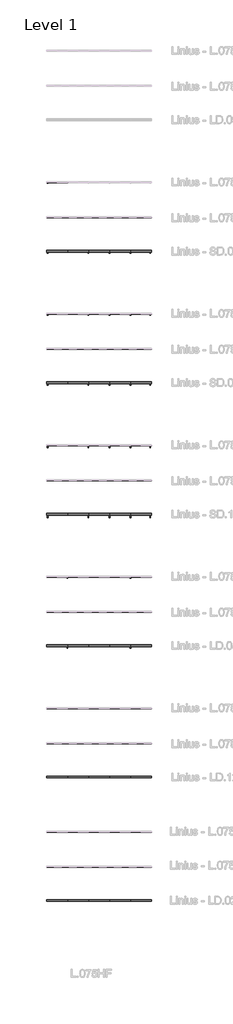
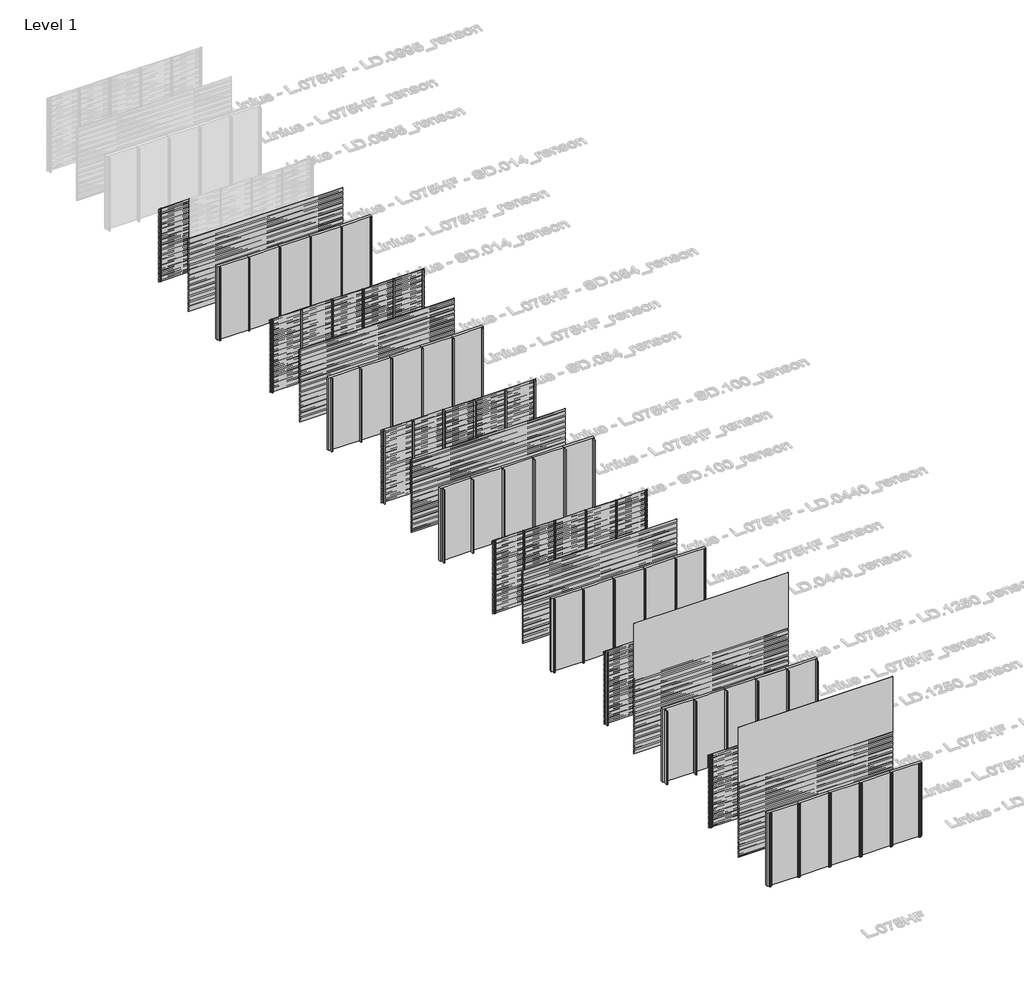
# One storey, part 1 of 55: 67 members, 62 plates.
"""IFC4 building model written with IfcOpenShell, lengths in millimetres."""

from ifc_helpers import new_model, si_unit, origin, origin_with_axes, place, context, project, spatial, polyline, outline, extrude, transform, mapped, element, save
from components import rectangular_mullion_2c867e25, rectangular_mullion_7803f5c4, rectangular_mullion_82152e2f, rectangular_mullion_5b30f3fd, rectangular_mullion_5e0e8e0a, rectangular_mullion_d2d38772, rectangular_mullion_efb80f74, rectangular_mullion_aaa1fb1b, rectangular_mullion_ea9d012c, rectangular_mullion_3facce28, rectangular_mullion_2b84ad7e, rectangular_mullion_0fd695e7, rectangular_mullion_6cf2c509, rectangular_mullion_9b796d85, rectangular_mullion_dfb17e98, rectangular_mullion_8b77bd57, rectangular_mullion_6132f1f1, rectangular_mullion_8f153c19, empty_system_panel_empty_5195cd12

model = new_model("IFC4")

# Units and contexts
model_context = context("Model", 3, world=origin())
ifc_project = project(units=[si_unit("LENGTHUNIT", "METRE", prefix="MILLI")], contexts=[model_context])

# Site, building, storey
site = spatial("IfcSite", under=ifc_project)
building = spatial("IfcBuilding", under=site)
storey = spatial("IfcBuildingStorey", under=building, Name="Level 1", Elevation=0.0)

# Members
placement = place(None, origin())
rectangular_mullion_shape = rectangular_mullion_2c867e25(model_context)
element("IfcMember", 1, ObjectType="Rectangular Mullion : LD.0440_renson", at=placement, inside=storey, context=model_context, shape_type="MappedRepresentation", body=[
    mapped(rectangular_mullion_shape, transform((4066.6208096, 21524.0540136, 0.0), x_axis=(-1.0, 0.0, 0.0), y_axis=(0.0, 1.0, 0.0), z_axis=(0.0, 0.0, -1.0))),
])
element("IfcMember", 2, ObjectType="Rectangular Mullion : LD.0440_renson", at=placement, inside=storey, context=model_context, shape_type="MappedRepresentation", body=[
    mapped(rectangular_mullion_shape, transform((2866.6208097, 21524.0540136, 0.0), x_axis=(-1.0, 0.0, 0.0), y_axis=(0.0, 1.0, 0.0), z_axis=(0.0, 0.0, -1.0))),
])
element("IfcMember", 3, ObjectType="Rectangular Mullion : LD.0440_renson", at=placement, inside=storey, context=model_context, shape_type="MappedRepresentation", body=[
    mapped(rectangular_mullion_shape, transform((1666.6208099, 21524.0540136, 0.0), x_axis=(-1.0, 0.0, 0.0), y_axis=(0.0, 1.0, 0.0), z_axis=(0.0, 0.0, -1.0))),
])
element("IfcMember", 4, ObjectType="Rectangular Mullion : LD.0440_renson", at=placement, inside=storey, context=model_context, shape_type="MappedRepresentation", body=[
    mapped(rectangular_mullion_shape, transform((4066.6208096, 17524.0540136, 0.0), x_axis=(-1.0, 0.0, 0.0), y_axis=(0.0, 1.0, 0.0), z_axis=(0.0, 0.0, -1.0))),
])
element("IfcMember", 5, ObjectType="Rectangular Mullion : LD.0440_renson", at=placement, inside=storey, context=model_context, shape_type="MappedRepresentation", body=[
    mapped(rectangular_mullion_shape, transform((2866.6208097, 17524.0540136, 0.0), x_axis=(-1.0, 0.0, 0.0), y_axis=(0.0, 1.0, 0.0), z_axis=(0.0, 0.0, -1.0))),
])
element("IfcMember", 6, ObjectType="Rectangular Mullion : LD.0440_renson", at=placement, inside=storey, context=model_context, shape_type="MappedRepresentation", body=[
    mapped(rectangular_mullion_shape, transform((1666.6208099, 17524.0540136, 0.0), x_axis=(-1.0, 0.0, 0.0), y_axis=(0.0, 1.0, 0.0), z_axis=(0.0, 0.0, -1.0))),
])
element("IfcMember", 7, ObjectType="Rectangular Mullion : LD.0440_renson", at=placement, inside=storey, context=model_context, shape_type="MappedRepresentation", body=[
    mapped(rectangular_mullion_shape, transform((5266.6208095, 17524.0540136, 0.0), x_axis=(-1.0, 0.0, 0.0), y_axis=(0.0, 1.0, 0.0), z_axis=(0.0, 0.0, -1.0))),
])
element("IfcMember", 8, ObjectType="Rectangular Mullion : LD.0440_renson", at=placement, inside=storey, context=model_context, shape_type="MappedRepresentation", body=[
    mapped(rectangular_mullion_shape, transform((5266.6208095, 21524.0540136, 0.0), x_axis=(-1.0, 0.0, 0.0), y_axis=(0.0, 1.0, 0.0), z_axis=(0.0, 0.0, -1.0))),
])
rectangular_mullion_2_shape = rectangular_mullion_7803f5c4(model_context)
element("IfcMember", 9, ObjectType="Rectangular Mullion : LD.1250_renson", at=placement, inside=storey, context=model_context, shape_type="MappedRepresentation", body=[
    mapped(rectangular_mullion_2_shape, transform((4066.6208096, 14024.0540136, 0.0), x_axis=(-1.0, 0.0, 0.0), y_axis=(0.0, 1.0, 0.0), z_axis=(0.0, 0.0, -1.0))),
])
element("IfcMember", 10, ObjectType="Rectangular Mullion : LD.1250_renson", at=placement, inside=storey, context=model_context, shape_type="MappedRepresentation", body=[
    mapped(rectangular_mullion_2_shape, transform((2866.6208097, 14024.0540136, 0.0), x_axis=(-1.0, 0.0, 0.0), y_axis=(0.0, 1.0, 0.0), z_axis=(0.0, 0.0, -1.0))),
])
element("IfcMember", 11, ObjectType="Rectangular Mullion : LD.1250_renson", at=placement, inside=storey, context=model_context, shape_type="MappedRepresentation", body=[
    mapped(rectangular_mullion_2_shape, transform((1666.6208099, 14024.0540136, 0.0), x_axis=(-1.0, 0.0, 0.0), y_axis=(0.0, 1.0, 0.0), z_axis=(0.0, 0.0, -1.0))),
])
element("IfcMember", 12, ObjectType="Rectangular Mullion : LD.1250_renson", at=placement, inside=storey, context=model_context, shape_type="MappedRepresentation", body=[
    mapped(rectangular_mullion_2_shape, transform((4066.6208096, 10024.0540136, 0.0), x_axis=(-1.0, 0.0, 0.0), y_axis=(0.0, 1.0, 0.0), z_axis=(0.0, 0.0, -1.0))),
])
element("IfcMember", 13, ObjectType="Rectangular Mullion : LD.1250_renson", at=placement, inside=storey, context=model_context, shape_type="MappedRepresentation", body=[
    mapped(rectangular_mullion_2_shape, transform((2866.6208097, 10024.0540136, 0.0), x_axis=(-1.0, 0.0, 0.0), y_axis=(0.0, 1.0, 0.0), z_axis=(0.0, 0.0, -1.0))),
])
element("IfcMember", 14, ObjectType="Rectangular Mullion : LD.1250_renson", at=placement, inside=storey, context=model_context, shape_type="MappedRepresentation", body=[
    mapped(rectangular_mullion_2_shape, transform((1666.6208099, 10024.0540136, 0.0), x_axis=(-1.0, 0.0, 0.0), y_axis=(0.0, 1.0, 0.0), z_axis=(0.0, 0.0, -1.0))),
])
element("IfcMember", 15, ObjectType="Rectangular Mullion : LD.1250_renson", at=placement, inside=storey, context=model_context, shape_type="MappedRepresentation", body=[
    mapped(rectangular_mullion_2_shape, transform((5266.6208095, 10024.0540136, 0.0), x_axis=(-1.0, 0.0, 0.0), y_axis=(0.0, 1.0, 0.0), z_axis=(0.0, 0.0, -1.0))),
])
element("IfcMember", 16, ObjectType="Rectangular Mullion : LD.1250_renson", at=placement, inside=storey, context=model_context, shape_type="MappedRepresentation", body=[
    mapped(rectangular_mullion_2_shape, transform((5266.6208095, 14024.0540136, 0.0), x_axis=(-1.0, 0.0, 0.0), y_axis=(0.0, 1.0, 0.0), z_axis=(0.0, 0.0, -1.0))),
])
rectangular_mullion_3_shape = rectangular_mullion_82152e2f(model_context)
element("IfcMember", 17, ObjectType="Rectangular Mullion : LD.0240_renson", at=placement, inside=storey, context=model_context, shape_type="MappedRepresentation", body=[
    mapped(rectangular_mullion_3_shape, transform((5266.6208095, 2985.0270068, 0.0), x_axis=(-1.0, 0.0, 0.0), y_axis=(0.0, 1.0, 0.0), z_axis=(0.0, 0.0, -1.0))),
])
element("IfcMember", 18, ObjectType="Rectangular Mullion : LD.0240_renson", at=placement, inside=storey, context=model_context, shape_type="MappedRepresentation", body=[
    mapped(rectangular_mullion_3_shape, transform((4066.6208096, 2985.0270068, 0.0), x_axis=(-1.0, 0.0, 0.0), y_axis=(0.0, 1.0, 0.0), z_axis=(0.0, 0.0, -1.0))),
])
element("IfcMember", 19, ObjectType="Rectangular Mullion : LD.0240_renson", at=placement, inside=storey, context=model_context, shape_type="MappedRepresentation", body=[
    mapped(rectangular_mullion_3_shape, transform((2866.6208097, 2985.0270068, 0.0), x_axis=(-1.0, 0.0, 0.0), y_axis=(0.0, 1.0, 0.0), z_axis=(0.0, 0.0, -1.0))),
])
element("IfcMember", 20, ObjectType="Rectangular Mullion : LD.0240_renson", at=placement, inside=storey, context=model_context, shape_type="MappedRepresentation", body=[
    mapped(rectangular_mullion_3_shape, transform((1666.6208099, 2985.0270068, 0.0), x_axis=(-1.0, 0.0, 0.0), y_axis=(0.0, 1.0, 0.0), z_axis=(0.0, 0.0, -1.0))),
])
element("IfcMember", 21, ObjectType="Rectangular Mullion : LD.0240_renson", at=placement, inside=storey, context=model_context, shape_type="MappedRepresentation", body=[
    mapped(rectangular_mullion_3_shape, transform((4066.6208096, 6987.0270068, 0.0), x_axis=(-1.0, 0.0, 0.0), y_axis=(0.0, 1.0, 0.0), z_axis=(0.0, 0.0, -1.0))),
])
element("IfcMember", 22, ObjectType="Rectangular Mullion : LD.0240_renson", at=placement, inside=storey, context=model_context, shape_type="MappedRepresentation", body=[
    mapped(rectangular_mullion_3_shape, transform((2866.6208097, 6987.0270068, 0.0), x_axis=(-1.0, 0.0, 0.0), y_axis=(0.0, 1.0, 0.0), z_axis=(0.0, 0.0, -1.0))),
])
element("IfcMember", 23, ObjectType="Rectangular Mullion : LD.0240_renson", at=placement, inside=storey, context=model_context, shape_type="MappedRepresentation", body=[
    mapped(rectangular_mullion_3_shape, transform((1666.6208099, 6987.0270068, 0.0), x_axis=(-1.0, 0.0, 0.0), y_axis=(0.0, 1.0, 0.0), z_axis=(0.0, 0.0, -1.0))),
])
element("IfcMember", 24, ObjectType="Rectangular Mullion : LD.0240_renson", at=placement, inside=storey, context=model_context, shape_type="MappedRepresentation", body=[
    mapped(rectangular_mullion_3_shape, transform((5266.6208095, 6987.0270068, 0.0), x_axis=(-1.0, 0.0, 0.0), y_axis=(0.0, 1.0, 0.0), z_axis=(0.0, 0.0, -1.0))),
])
rectangular_mullion_4_shape = rectangular_mullion_5b30f3fd(model_context)
element("IfcMember", 25, ObjectType="Rectangular Mullion : LD.0440 - left_renson", at=placement, inside=storey, context=model_context, shape_type="MappedRepresentation", body=[
    mapped(rectangular_mullion_4_shape, transform((466.6208097, 21524.0540136, 0.0), x_axis=(-1.0, 0.0, 0.0), y_axis=(0.0, 1.0, 0.0), z_axis=(0.0, 0.0, -1.0))),
])
element("IfcMember", 26, ObjectType="Rectangular Mullion : LD.0440 - left_renson", at=placement, inside=storey, context=model_context, shape_type="MappedRepresentation", body=[
    mapped(rectangular_mullion_4_shape, transform((466.6208097, 17524.0540136, 0.0), x_axis=(-1.0, 0.0, 0.0), y_axis=(0.0, 1.0, 0.0), z_axis=(0.0, 0.0, -1.0))),
])
rectangular_mullion_5_shape = rectangular_mullion_5e0e8e0a(model_context)
element("IfcMember", 27, ObjectType="Rectangular Mullion : LD.0440 - right_renson", at=placement, inside=storey, context=model_context, shape_type="MappedRepresentation", body=[
    mapped(rectangular_mullion_5_shape, transform((6466.6208097, 21524.0540136, 3000.0), x_axis=(1.0, 0.0, 0.0), y_axis=(0.0, 1.0, 0.0), z_axis=(0.0, 0.0, 1.0))),
])
element("IfcMember", 28, ObjectType="Rectangular Mullion : LD.0440 - right_renson", at=placement, inside=storey, context=model_context, shape_type="MappedRepresentation", body=[
    mapped(rectangular_mullion_5_shape, transform((6466.6208097, 17524.0540136, 3000.0), x_axis=(1.0, 0.0, 0.0), y_axis=(0.0, 1.0, 0.0), z_axis=(0.0, 0.0, 1.0))),
])
rectangular_mullion_6_shape = rectangular_mullion_d2d38772(model_context)
element("IfcMember", 29, ObjectType="Rectangular Mullion : LD.1250 - left_renson", at=placement, inside=storey, context=model_context, shape_type="MappedRepresentation", body=[
    mapped(rectangular_mullion_6_shape, transform((466.6208097, 14024.0540136, 0.0), x_axis=(-1.0, 0.0, 0.0), y_axis=(0.0, 1.0, 0.0), z_axis=(0.0, 0.0, -1.0))),
])
element("IfcMember", 30, ObjectType="Rectangular Mullion : LD.1250 - left_renson", at=placement, inside=storey, context=model_context, shape_type="MappedRepresentation", body=[
    mapped(rectangular_mullion_6_shape, transform((466.6208097, 10024.0540136, 0.0), x_axis=(-1.0, 0.0, 0.0), y_axis=(0.0, 1.0, 0.0), z_axis=(0.0, 0.0, -1.0))),
])
rectangular_mullion_7_shape = rectangular_mullion_efb80f74(model_context)
element("IfcMember", 31, ObjectType="Rectangular Mullion : LD.1250 - right_renson", at=placement, inside=storey, context=model_context, shape_type="MappedRepresentation", body=[
    mapped(rectangular_mullion_7_shape, transform((6466.6208097, 14024.0540136, 3000.0), x_axis=(1.0, 0.0, 0.0), y_axis=(0.0, 1.0, 0.0), z_axis=(0.0, 0.0, 1.0))),
])
element("IfcMember", 32, ObjectType="Rectangular Mullion : LD.1250 - right_renson", at=placement, inside=storey, context=model_context, shape_type="MappedRepresentation", body=[
    mapped(rectangular_mullion_7_shape, transform((6466.6208097, 10024.0540136, 3000.0), x_axis=(1.0, 0.0, 0.0), y_axis=(0.0, 1.0, 0.0), z_axis=(0.0, 0.0, 1.0))),
])
rectangular_mullion_8_shape = rectangular_mullion_aaa1fb1b(model_context)
element("IfcMember", 33, ObjectType="Rectangular Mullion : LD.0240 - left_renson", at=placement, inside=storey, context=model_context, shape_type="MappedRepresentation", body=[
    mapped(rectangular_mullion_8_shape, transform((466.6208097, 2985.0270068, 0.0), x_axis=(-1.0, 0.0, 0.0), y_axis=(0.0, 1.0, 0.0), z_axis=(0.0, 0.0, -1.0))),
])
element("IfcMember", 34, ObjectType="Rectangular Mullion : LD.0240 - left_renson", at=placement, inside=storey, context=model_context, shape_type="MappedRepresentation", body=[
    mapped(rectangular_mullion_8_shape, transform((466.6208097, 6987.0270068, 0.0), x_axis=(-1.0, 0.0, 0.0), y_axis=(0.0, 1.0, 0.0), z_axis=(0.0, 0.0, -1.0))),
])
rectangular_mullion_9_shape = rectangular_mullion_ea9d012c(model_context)
element("IfcMember", 35, ObjectType="Rectangular Mullion : LD.0240 - right_renson", at=placement, inside=storey, context=model_context, shape_type="MappedRepresentation", body=[
    mapped(rectangular_mullion_9_shape, transform((6466.6208097, 2985.0270068, 3000.0), x_axis=(1.0, 0.0, 0.0), y_axis=(0.0, 1.0, 0.0), z_axis=(0.0, 0.0, 1.0))),
])
element("IfcMember", 36, ObjectType="Rectangular Mullion : LD.0240 - right_renson", at=placement, inside=storey, context=model_context, shape_type="MappedRepresentation", body=[
    mapped(rectangular_mullion_9_shape, transform((6466.6208097, 6987.0270068, 3000.0), x_axis=(1.0, 0.0, 0.0), y_axis=(0.0, 1.0, 0.0), z_axis=(0.0, 0.0, 1.0))),
])
rectangular_mullion_10_shape = rectangular_mullion_3facce28(model_context)
element("IfcMember", 37, ObjectType="Rectangular Mullion : SD.014_renson", at=placement, inside=storey, context=model_context, shape_type="MappedRepresentation", body=[
    mapped(rectangular_mullion_10_shape, transform((4066.6208096, 40024.0540136, 0.0), x_axis=(-1.0, 0.0, 0.0), y_axis=(0.0, 1.0, 0.0), z_axis=(0.0, 0.0, -1.0))),
])
element("IfcMember", 38, ObjectType="Rectangular Mullion : SD.014_renson", at=placement, inside=storey, context=model_context, shape_type="MappedRepresentation", body=[
    mapped(rectangular_mullion_10_shape, transform((2866.6208097, 40024.0540136, 0.0), x_axis=(-1.0, 0.0, 0.0), y_axis=(0.0, 1.0, 0.0), z_axis=(0.0, 0.0, -1.0))),
])
element("IfcMember", 39, ObjectType="Rectangular Mullion : SD.014_renson", at=placement, inside=storey, context=model_context, shape_type="MappedRepresentation", body=[
    mapped(rectangular_mullion_10_shape, transform((1666.6208099, 40024.0540136, 0.0), x_axis=(-1.0, 0.0, 0.0), y_axis=(0.0, 1.0, 0.0), z_axis=(0.0, 0.0, -1.0))),
])
element("IfcMember", 40, ObjectType="Rectangular Mullion : SD.014_renson", at=placement, inside=storey, context=model_context, shape_type="MappedRepresentation", body=[
    mapped(rectangular_mullion_10_shape, transform((5266.6208095, 40024.0540136, 0.0), x_axis=(-1.0, 0.0, 0.0), y_axis=(0.0, 1.0, 0.0), z_axis=(0.0, 0.0, -1.0))),
])
rectangular_mullion_11_shape = rectangular_mullion_2b84ad7e(model_context)
element("IfcMember", 41, ObjectType="Rectangular Mullion : SD.014 - left_renson", at=placement, inside=storey, context=model_context, shape_type="MappedRepresentation", body=[
    mapped(rectangular_mullion_11_shape, transform((466.6208097, 44024.0540136, 0.0), x_axis=(-1.0, 0.0, 0.0), y_axis=(0.0, 1.0, 0.0), z_axis=(0.0, 0.0, -1.0))),
])
element("IfcMember", 42, ObjectType="Rectangular Mullion : SD.014 - left_renson", at=placement, inside=storey, context=model_context, shape_type="MappedRepresentation", body=[
    mapped(rectangular_mullion_11_shape, transform((466.6208097, 40024.0540136, 0.0), x_axis=(-1.0, 0.0, 0.0), y_axis=(0.0, 1.0, 0.0), z_axis=(0.0, 0.0, -1.0))),
])
rectangular_mullion_12_shape = rectangular_mullion_0fd695e7(model_context)
element("IfcMember", 43, ObjectType="Rectangular Mullion : SD.014 - right_renson", at=placement, inside=storey, context=model_context, shape_type="MappedRepresentation", body=[
    mapped(rectangular_mullion_12_shape, transform((6466.6208097, 40024.0540136, 3000.0), x_axis=(1.0, 0.0, 0.0), y_axis=(0.0, 1.0, 0.0), z_axis=(0.0, 0.0, 1.0))),
])
rectangular_mullion_13_shape = rectangular_mullion_6cf2c509(model_context)
element("IfcMember", 44, ObjectType="Rectangular Mullion : SD.054_renson", at=placement, inside=storey, context=model_context, shape_type="MappedRepresentation", body=[
    mapped(rectangular_mullion_13_shape, transform((4066.6208096, 36524.0540136, 0.0), x_axis=(-1.0, 0.0, 0.0), y_axis=(0.0, 1.0, 0.0), z_axis=(0.0, 0.0, -1.0))),
])
element("IfcMember", 45, ObjectType="Rectangular Mullion : SD.054_renson", at=placement, inside=storey, context=model_context, shape_type="MappedRepresentation", body=[
    mapped(rectangular_mullion_13_shape, transform((2866.6208097, 36524.0540136, 0.0), x_axis=(-1.0, 0.0, 0.0), y_axis=(0.0, 1.0, 0.0), z_axis=(0.0, 0.0, -1.0))),
])
element("IfcMember", 46, ObjectType="Rectangular Mullion : SD.054_renson", at=placement, inside=storey, context=model_context, shape_type="MappedRepresentation", body=[
    mapped(rectangular_mullion_13_shape, transform((1666.6208099, 36524.0540136, 0.0), x_axis=(-1.0, 0.0, 0.0), y_axis=(0.0, 1.0, 0.0), z_axis=(0.0, 0.0, -1.0))),
])
element("IfcMember", 47, ObjectType="Rectangular Mullion : SD.054_renson", at=placement, inside=storey, context=model_context, shape_type="MappedRepresentation", body=[
    mapped(rectangular_mullion_13_shape, transform((4066.6208096, 32524.0540136, 0.0), x_axis=(-1.0, 0.0, 0.0), y_axis=(0.0, 1.0, 0.0), z_axis=(0.0, 0.0, -1.0))),
])
element("IfcMember", 48, ObjectType="Rectangular Mullion : SD.054_renson", at=placement, inside=storey, context=model_context, shape_type="MappedRepresentation", body=[
    mapped(rectangular_mullion_13_shape, transform((2866.6208097, 32524.0540136, 0.0), x_axis=(-1.0, 0.0, 0.0), y_axis=(0.0, 1.0, 0.0), z_axis=(0.0, 0.0, -1.0))),
])
element("IfcMember", 49, ObjectType="Rectangular Mullion : SD.054_renson", at=placement, inside=storey, context=model_context, shape_type="MappedRepresentation", body=[
    mapped(rectangular_mullion_13_shape, transform((1666.6208099, 32524.0540136, 0.0), x_axis=(-1.0, 0.0, 0.0), y_axis=(0.0, 1.0, 0.0), z_axis=(0.0, 0.0, -1.0))),
])
element("IfcMember", 50, ObjectType="Rectangular Mullion : SD.054_renson", at=placement, inside=storey, context=model_context, shape_type="MappedRepresentation", body=[
    mapped(rectangular_mullion_13_shape, transform((5266.6208095, 32524.0540136, 0.0), x_axis=(-1.0, 0.0, 0.0), y_axis=(0.0, 1.0, 0.0), z_axis=(0.0, 0.0, -1.0))),
])
element("IfcMember", 51, ObjectType="Rectangular Mullion : SD.054_renson", at=placement, inside=storey, context=model_context, shape_type="MappedRepresentation", body=[
    mapped(rectangular_mullion_13_shape, transform((5266.6208095, 36524.0540136, 0.0), x_axis=(-1.0, 0.0, 0.0), y_axis=(0.0, 1.0, 0.0), z_axis=(0.0, 0.0, -1.0))),
])
rectangular_mullion_14_shape = rectangular_mullion_9b796d85(model_context)
element("IfcMember", 52, ObjectType="Rectangular Mullion : SD.054 - left_renson", at=placement, inside=storey, context=model_context, shape_type="MappedRepresentation", body=[
    mapped(rectangular_mullion_14_shape, transform((466.6208097, 36524.0540136, 0.0), x_axis=(-1.0, 0.0, 0.0), y_axis=(0.0, 1.0, 0.0), z_axis=(0.0, 0.0, -1.0))),
])
element("IfcMember", 53, ObjectType="Rectangular Mullion : SD.054 - left_renson", at=placement, inside=storey, context=model_context, shape_type="MappedRepresentation", body=[
    mapped(rectangular_mullion_14_shape, transform((466.6208097, 32524.0540136, 0.0), x_axis=(-1.0, 0.0, 0.0), y_axis=(0.0, 1.0, 0.0), z_axis=(0.0, 0.0, -1.0))),
])
rectangular_mullion_15_shape = rectangular_mullion_dfb17e98(model_context)
element("IfcMember", 54, ObjectType="Rectangular Mullion : SD.054 - right_renson", at=placement, inside=storey, context=model_context, shape_type="MappedRepresentation", body=[
    mapped(rectangular_mullion_15_shape, transform((6466.6208097, 36524.0540136, 3000.0), x_axis=(1.0, 0.0, 0.0), y_axis=(0.0, 1.0, 0.0), z_axis=(0.0, 0.0, 1.0))),
])
element("IfcMember", 55, ObjectType="Rectangular Mullion : SD.054 - right_renson", at=placement, inside=storey, context=model_context, shape_type="MappedRepresentation", body=[
    mapped(rectangular_mullion_15_shape, transform((6466.6208097, 32524.0540136, 3000.0), x_axis=(1.0, 0.0, 0.0), y_axis=(0.0, 1.0, 0.0), z_axis=(0.0, 0.0, 1.0))),
])
rectangular_mullion_16_shape = rectangular_mullion_8b77bd57(model_context)
element("IfcMember", 56, ObjectType="Rectangular Mullion : SD.100_renson", at=placement, inside=storey, context=model_context, shape_type="MappedRepresentation", body=[
    mapped(rectangular_mullion_16_shape, transform((4066.6208096, 29024.0540136, 0.0), x_axis=(-1.0, 0.0, 0.0), y_axis=(0.0, 1.0, 0.0), z_axis=(0.0, 0.0, -1.0))),
])
element("IfcMember", 57, ObjectType="Rectangular Mullion : SD.100_renson", at=placement, inside=storey, context=model_context, shape_type="MappedRepresentation", body=[
    mapped(rectangular_mullion_16_shape, transform((2866.6208097, 29024.0540136, 0.0), x_axis=(-1.0, 0.0, 0.0), y_axis=(0.0, 1.0, 0.0), z_axis=(0.0, 0.0, -1.0))),
])
element("IfcMember", 58, ObjectType="Rectangular Mullion : SD.100_renson", at=placement, inside=storey, context=model_context, shape_type="MappedRepresentation", body=[
    mapped(rectangular_mullion_16_shape, transform((1666.6208099, 29024.0540136, 0.0), x_axis=(-1.0, 0.0, 0.0), y_axis=(0.0, 1.0, 0.0), z_axis=(0.0, 0.0, -1.0))),
])
element("IfcMember", 59, ObjectType="Rectangular Mullion : SD.100_renson", at=placement, inside=storey, context=model_context, shape_type="MappedRepresentation", body=[
    mapped(rectangular_mullion_16_shape, transform((4066.6208096, 25024.0540136, 0.0), x_axis=(-1.0, 0.0, 0.0), y_axis=(0.0, 1.0, 0.0), z_axis=(0.0, 0.0, -1.0))),
])
element("IfcMember", 60, ObjectType="Rectangular Mullion : SD.100_renson", at=placement, inside=storey, context=model_context, shape_type="MappedRepresentation", body=[
    mapped(rectangular_mullion_16_shape, transform((2866.6208097, 25024.0540136, 0.0), x_axis=(-1.0, 0.0, 0.0), y_axis=(0.0, 1.0, 0.0), z_axis=(0.0, 0.0, -1.0))),
])
element("IfcMember", 61, ObjectType="Rectangular Mullion : SD.100_renson", at=placement, inside=storey, context=model_context, shape_type="MappedRepresentation", body=[
    mapped(rectangular_mullion_16_shape, transform((1666.6208099, 25024.0540136, 0.0), x_axis=(-1.0, 0.0, 0.0), y_axis=(0.0, 1.0, 0.0), z_axis=(0.0, 0.0, -1.0))),
])
element("IfcMember", 62, ObjectType="Rectangular Mullion : SD.100_renson", at=placement, inside=storey, context=model_context, shape_type="MappedRepresentation", body=[
    mapped(rectangular_mullion_16_shape, transform((5266.6208095, 25024.0540136, 0.0), x_axis=(-1.0, 0.0, 0.0), y_axis=(0.0, 1.0, 0.0), z_axis=(0.0, 0.0, -1.0))),
])
element("IfcMember", 63, ObjectType="Rectangular Mullion : SD.100_renson", at=placement, inside=storey, context=model_context, shape_type="MappedRepresentation", body=[
    mapped(rectangular_mullion_16_shape, transform((5266.6208095, 29024.0540136, 0.0), x_axis=(-1.0, 0.0, 0.0), y_axis=(0.0, 1.0, 0.0), z_axis=(0.0, 0.0, -1.0))),
])
rectangular_mullion_17_shape = rectangular_mullion_6132f1f1(model_context)
element("IfcMember", 64, ObjectType="Rectangular Mullion : SD.100 - left_renson", at=placement, inside=storey, context=model_context, shape_type="MappedRepresentation", body=[
    mapped(rectangular_mullion_17_shape, transform((466.6208097, 29024.0540136, 0.0), x_axis=(-1.0, 0.0, 0.0), y_axis=(0.0, 1.0, 0.0), z_axis=(0.0, 0.0, -1.0))),
])
element("IfcMember", 65, ObjectType="Rectangular Mullion : SD.100 - left_renson", at=placement, inside=storey, context=model_context, shape_type="MappedRepresentation", body=[
    mapped(rectangular_mullion_17_shape, transform((466.6208097, 25024.0540136, 0.0), x_axis=(-1.0, 0.0, 0.0), y_axis=(0.0, 1.0, 0.0), z_axis=(0.0, 0.0, -1.0))),
])
rectangular_mullion_18_shape = rectangular_mullion_8f153c19(model_context)
element("IfcMember", 66, ObjectType="Rectangular Mullion : SD.100 - right_renson", at=placement, inside=storey, context=model_context, shape_type="MappedRepresentation", body=[
    mapped(rectangular_mullion_18_shape, transform((6466.6208097, 29024.0540136, 3000.0), x_axis=(1.0, 0.0, 0.0), y_axis=(0.0, 1.0, 0.0), z_axis=(0.0, 0.0, 1.0))),
])
element("IfcMember", 67, ObjectType="Rectangular Mullion : SD.100 - right_renson", at=placement, inside=storey, context=model_context, shape_type="MappedRepresentation", body=[
    mapped(rectangular_mullion_18_shape, transform((6466.6208097, 25024.0540136, 3000.0), x_axis=(1.0, 0.0, 0.0), y_axis=(0.0, 1.0, 0.0), z_axis=(0.0, 0.0, 1.0))),
])

# Plates
element("IfcPlate", 68, ObjectType="Linius - L.075HF_renson", at=placement, inside=storey, context=model_context, shape_type="SweptSolid", body=[
    extrude(outline(polyline([(466.6208097, 44025.0540136), (1666.6208099, 44025.0540136), (1666.6208099, 44023.0540136), (466.6208097, 44023.0540136), (466.6208097, 44025.0540136)])), origin_with_axes(), (0.0, 0.0, 1.0), 3000.0),
])
element("IfcPlate", 69, ObjectType="Linius - L.075HF_renson", at=placement, inside=storey, context=model_context, shape_type="SweptSolid", body=[
    extrude(outline(polyline([(466.6208097, 42025.0540136), (6466.6208097, 42025.0540136), (6466.6208097, 42023.0540136), (466.6208097, 42023.0540136), (466.6208097, 42025.0540136)])), origin_with_axes(), (0.0, 0.0, 1.0), 3000.0),
])
element("IfcPlate", 70, ObjectType="Linius - L.075HF_renson", at=placement, inside=storey, context=model_context, shape_type="SweptSolid", body=[
    extrude(outline(polyline([(466.6208097, 36525.0540136), (1666.6208099, 36525.0540136), (1666.6208099, 36523.0540136), (466.6208097, 36523.0540136), (466.6208097, 36525.0540136)])), origin_with_axes(), (0.0, 0.0, 1.0), 3000.0),
])
element("IfcPlate", 71, ObjectType="Linius - L.075HF_renson", at=placement, inside=storey, context=model_context, shape_type="SweptSolid", body=[
    extrude(outline(polyline([(1666.6208099, 36525.0540136), (2866.6208097, 36525.0540136), (2866.6208097, 36523.0540136), (1666.6208099, 36523.0540136), (1666.6208099, 36525.0540136)])), origin_with_axes(), (0.0, 0.0, 1.0), 3000.0),
])
element("IfcPlate", 72, ObjectType="Linius - L.075HF_renson", at=placement, inside=storey, context=model_context, shape_type="SweptSolid", body=[
    extrude(outline(polyline([(2866.6208097, 36525.0540136), (4066.6208096, 36525.0540136), (4066.6208096, 36523.0540136), (2866.6208097, 36523.0540136), (2866.6208097, 36525.0540136)])), origin_with_axes(), (0.0, 0.0, 1.0), 3000.0),
])
element("IfcPlate", 73, ObjectType="Linius - L.075HF_renson", at=placement, inside=storey, context=model_context, shape_type="SweptSolid", body=[
    extrude(outline(polyline([(5266.6208095, 36525.0540136), (6466.6208097, 36525.0540136), (6466.6208097, 36523.0540136), (5266.6208095, 36523.0540136), (5266.6208095, 36525.0540136)])), origin_with_axes(), (0.0, 0.0, 1.0), 3000.0),
])
element("IfcPlate", 74, ObjectType="Linius - L.075HF_renson", at=placement, inside=storey, context=model_context, shape_type="SweptSolid", body=[
    extrude(outline(polyline([(466.6208097, 34525.0540136), (6466.6208097, 34525.0540136), (6466.6208097, 34523.0540136), (466.6208097, 34523.0540136), (466.6208097, 34525.0540136)])), origin_with_axes(), (0.0, 0.0, 1.0), 3000.0),
])
element("IfcPlate", 75, ObjectType="Linius - L.075HF_renson", at=placement, inside=storey, context=model_context, shape_type="SweptSolid", body=[
    extrude(outline(polyline([(466.6208097, 29025.0540136), (1666.6208099, 29025.0540136), (1666.6208099, 29023.0540136), (466.6208097, 29023.0540136), (466.6208097, 29025.0540136)])), origin_with_axes(), (0.0, 0.0, 1.0), 3000.0),
])
element("IfcPlate", 76, ObjectType="Linius - L.075HF_renson", at=placement, inside=storey, context=model_context, shape_type="SweptSolid", body=[
    extrude(outline(polyline([(1666.6208099, 29025.0540136), (2866.6208097, 29025.0540136), (2866.6208097, 29023.0540136), (1666.6208099, 29023.0540136), (1666.6208099, 29025.0540136)])), origin_with_axes(), (0.0, 0.0, 1.0), 3000.0),
])
element("IfcPlate", 77, ObjectType="Linius - L.075HF_renson", at=placement, inside=storey, context=model_context, shape_type="SweptSolid", body=[
    extrude(outline(polyline([(2866.6208097, 29025.0540136), (4066.6208096, 29025.0540136), (4066.6208096, 29023.0540136), (2866.6208097, 29023.0540136), (2866.6208097, 29025.0540136)])), origin_with_axes(), (0.0, 0.0, 1.0), 3000.0),
])
element("IfcPlate", 78, ObjectType="Linius - L.075HF_renson", at=placement, inside=storey, context=model_context, shape_type="SweptSolid", body=[
    extrude(outline(polyline([(5266.6208095, 29025.0540136), (6466.6208097, 29025.0540136), (6466.6208097, 29023.0540136), (5266.6208095, 29023.0540136), (5266.6208095, 29025.0540136)])), origin_with_axes(), (0.0, 0.0, 1.0), 3000.0),
])
element("IfcPlate", 79, ObjectType="Linius - L.075HF_renson", at=placement, inside=storey, context=model_context, shape_type="SweptSolid", body=[
    extrude(outline(polyline([(466.6208097, 27025.0540136), (6466.6208097, 27025.0540136), (6466.6208097, 27023.0540136), (466.6208097, 27023.0540136), (466.6208097, 27025.0540136)])), origin_with_axes(), (0.0, 0.0, 1.0), 3000.0),
])
element("IfcPlate", 80, ObjectType="Linius - L.075HF_renson", at=placement, inside=storey, context=model_context, shape_type="SweptSolid", body=[
    extrude(outline(polyline([(466.6208097, 21525.0540136), (1666.6208099, 21525.0540136), (1666.6208099, 21523.0540136), (466.6208097, 21523.0540136), (466.6208097, 21525.0540136)])), origin_with_axes(), (0.0, 0.0, 1.0), 3000.0),
])
element("IfcPlate", 81, ObjectType="Linius - L.075HF_renson", at=placement, inside=storey, context=model_context, shape_type="SweptSolid", body=[
    extrude(outline(polyline([(1666.6208099, 21525.0540136), (2866.6208097, 21525.0540136), (2866.6208097, 21523.0540136), (1666.6208099, 21523.0540136), (1666.6208099, 21525.0540136)])), origin_with_axes(), (0.0, 0.0, 1.0), 3000.0),
])
element("IfcPlate", 82, ObjectType="Linius - L.075HF_renson", at=placement, inside=storey, context=model_context, shape_type="SweptSolid", body=[
    extrude(outline(polyline([(2866.6208097, 21525.0540136), (4066.6208096, 21525.0540136), (4066.6208096, 21523.0540136), (2866.6208097, 21523.0540136), (2866.6208097, 21525.0540136)])), origin_with_axes(), (0.0, 0.0, 1.0), 3000.0),
])
element("IfcPlate", 83, ObjectType="Linius - L.075HF_renson", at=placement, inside=storey, context=model_context, shape_type="SweptSolid", body=[
    extrude(outline(polyline([(5266.6208095, 21525.0540136), (6466.6208097, 21525.0540136), (6466.6208097, 21523.0540136), (5266.6208095, 21523.0540136), (5266.6208095, 21525.0540136)])), origin_with_axes(), (0.0, 0.0, 1.0), 3000.0),
])
element("IfcPlate", 84, ObjectType="Linius - L.075HF_renson", at=placement, inside=storey, context=model_context, shape_type="SweptSolid", body=[
    extrude(outline(polyline([(466.6208097, 19525.0540136), (6466.6208097, 19525.0540136), (6466.6208097, 19523.0540136), (466.6208097, 19523.0540136), (466.6208097, 19525.0540136)])), origin_with_axes(), (0.0, 0.0, 1.0), 3000.0),
])
element("IfcPlate", 85, ObjectType="Linius - L.075HF_renson", at=placement, inside=storey, context=model_context, shape_type="SweptSolid", body=[
    extrude(outline(polyline([(466.6208097, 14025.0540136), (1666.6208099, 14025.0540136), (1666.6208099, 14023.0540136), (466.6208097, 14023.0540136), (466.6208097, 14025.0540136)])), origin_with_axes(), (0.0, 0.0, 1.0), 3000.0),
])
element("IfcPlate", 86, ObjectType="Linius - L.075HF_renson", at=placement, inside=storey, context=model_context, shape_type="SweptSolid", body=[
    extrude(outline(polyline([(1666.6208099, 14025.0540136), (2866.6208097, 14025.0540136), (2866.6208097, 14023.0540136), (1666.6208099, 14023.0540136), (1666.6208099, 14025.0540136)])), origin_with_axes(), (0.0, 0.0, 1.0), 3000.0),
])
element("IfcPlate", 87, ObjectType="Linius - L.075HF_renson", at=placement, inside=storey, context=model_context, shape_type="SweptSolid", body=[
    extrude(outline(polyline([(2866.6208097, 14025.0540136), (4066.6208096, 14025.0540136), (4066.6208096, 14023.0540136), (2866.6208097, 14023.0540136), (2866.6208097, 14025.0540136)])), origin_with_axes(), (0.0, 0.0, 1.0), 3000.0),
])
element("IfcPlate", 88, ObjectType="Linius - L.075HF_renson", at=placement, inside=storey, context=model_context, shape_type="SweptSolid", body=[
    extrude(outline(polyline([(5266.6208095, 14025.0540136), (6466.6208097, 14025.0540136), (6466.6208097, 14023.0540136), (5266.6208095, 14023.0540136), (5266.6208095, 14025.0540136)])), origin_with_axes(), (0.0, 0.0, 1.0), 3000.0),
])
element("IfcPlate", 89, ObjectType="Linius - L.075HF_renson", at=placement, inside=storey, context=model_context, shape_type="SweptSolid", body=[
    extrude(outline(polyline([(466.6208097, 12025.0540136), (6466.6208097, 12025.0540136), (6466.6208097, 12023.0540136), (466.6208097, 12023.0540136), (466.6208097, 12025.0540136)])), origin_with_axes(), (0.0, 0.0, 1.0), 5355.2256909),
])
element("IfcPlate", 90, ObjectType="Linius - L.075HF_renson", at=placement, inside=storey, context=model_context, shape_type="SweptSolid", body=[
    extrude(outline(polyline([(4066.6208096, 21525.0540136), (5266.6208095, 21525.0540136), (5266.6208095, 21523.0540136), (4066.6208096, 21523.0540136), (4066.6208096, 21525.0540136)])), origin_with_axes(), (0.0, 0.0, 1.0), 3000.0),
])
element("IfcPlate", 91, ObjectType="Linius - L.075HF_renson", at=placement, inside=storey, context=model_context, shape_type="SweptSolid", body=[
    extrude(outline(polyline([(4066.6208096, 14025.0540136), (5266.6208095, 14025.0540136), (5266.6208095, 14023.0540136), (4066.6208096, 14023.0540136), (4066.6208096, 14025.0540136)])), origin_with_axes(), (0.0, 0.0, 1.0), 3000.0),
])
element("IfcPlate", 92, ObjectType="Linius - L.075HF_renson", at=placement, inside=storey, context=model_context, shape_type="SweptSolid", body=[
    extrude(outline(polyline([(4066.6208096, 36525.0540136), (5266.6208095, 36525.0540136), (5266.6208095, 36523.0540136), (4066.6208096, 36523.0540136), (4066.6208096, 36525.0540136)])), origin_with_axes(), (0.0, 0.0, 1.0), 3000.0),
])
element("IfcPlate", 93, ObjectType="Linius - L.075HF_renson", at=placement, inside=storey, context=model_context, shape_type="SweptSolid", body=[
    extrude(outline(polyline([(4066.6208096, 29025.0540136), (5266.6208095, 29025.0540136), (5266.6208095, 29023.0540136), (4066.6208096, 29023.0540136), (4066.6208096, 29025.0540136)])), origin_with_axes(), (0.0, 0.0, 1.0), 3000.0),
])
element("IfcPlate", 94, ObjectType="Linius - L.075HF_renson", at=placement, inside=storey, context=model_context, shape_type="SweptSolid", body=[
    extrude(outline(polyline([(466.6208097, 4988.0270068), (6466.6208097, 4988.0270068), (6466.6208097, 4986.0270068), (466.6208097, 4986.0270068), (466.6208097, 4988.0270068)])), origin_with_axes(), (0.0, 0.0, 1.0), 5355.2256909),
])
element("IfcPlate", 95, ObjectType="Linius - L.075HF_renson", at=placement, inside=storey, context=model_context, shape_type="SweptSolid", body=[
    extrude(outline(polyline([(466.6208097, 6988.0270068), (1666.6208099, 6988.0270068), (1666.6208099, 6986.0270068), (466.6208097, 6986.0270068), (466.6208097, 6988.0270068)])), origin_with_axes(), (0.0, 0.0, 1.0), 3000.0),
])
element("IfcPlate", 96, ObjectType="Linius - L.075HF_renson", at=placement, inside=storey, context=model_context, shape_type="SweptSolid", body=[
    extrude(outline(polyline([(1666.6208099, 6988.0270068), (2866.6208097, 6988.0270068), (2866.6208097, 6986.0270068), (1666.6208099, 6986.0270068), (1666.6208099, 6988.0270068)])), origin_with_axes(), (0.0, 0.0, 1.0), 3000.0),
])
element("IfcPlate", 97, ObjectType="Linius - L.075HF_renson", at=placement, inside=storey, context=model_context, shape_type="SweptSolid", body=[
    extrude(outline(polyline([(2866.6208097, 6988.0270068), (4066.6208096, 6988.0270068), (4066.6208096, 6986.0270068), (2866.6208097, 6986.0270068), (2866.6208097, 6988.0270068)])), origin_with_axes(), (0.0, 0.0, 1.0), 3000.0),
])
element("IfcPlate", 98, ObjectType="Linius - L.075HF_renson", at=placement, inside=storey, context=model_context, shape_type="SweptSolid", body=[
    extrude(outline(polyline([(5266.6208095, 6988.0270068), (6466.6208097, 6988.0270068), (6466.6208097, 6986.0270068), (5266.6208095, 6986.0270068), (5266.6208095, 6988.0270068)])), origin_with_axes(), (0.0, 0.0, 1.0), 3000.0),
])
element("IfcPlate", 99, ObjectType="Linius - L.075HF_renson", at=placement, inside=storey, context=model_context, shape_type="SweptSolid", body=[
    extrude(outline(polyline([(4066.6208096, 6988.0270068), (5266.6208095, 6988.0270068), (5266.6208095, 6986.0270068), (4066.6208096, 6986.0270068), (4066.6208096, 6988.0270068)])), origin_with_axes(), (0.0, 0.0, 1.0), 3000.0),
])
empty_system_panel_empty_shape = empty_system_panel_empty_5195cd12(model_context)
element("IfcPlate", 100, ObjectType="Empty System Panel : Empty", at=placement, inside=storey, context=model_context, shape_type="MappedRepresentation", body=[
    mapped(empty_system_panel_empty_shape, transform((5866.6208096, 40024.0540136, 0.0), x_axis=(-1.0, 0.0, 0.0), y_axis=(0.0, -1.0, 0.0), z_axis=(0.0, 0.0, 1.0))),
])
element("IfcPlate", 101, ObjectType="Empty System Panel : Empty", at=placement, inside=storey, context=model_context, shape_type="MappedRepresentation", body=[
    mapped(empty_system_panel_empty_shape, transform((5866.6208096, 32524.0540136, 0.0), x_axis=(-1.0, 0.0, 0.0), y_axis=(0.0, -1.0, 0.0), z_axis=(0.0, 0.0, 1.0))),
])
element("IfcPlate", 102, ObjectType="Empty System Panel : Empty", at=placement, inside=storey, context=model_context, shape_type="MappedRepresentation", body=[
    mapped(empty_system_panel_empty_shape, transform((5866.6208096, 25024.0540136, 0.0), x_axis=(-1.0, 0.0, 0.0), y_axis=(0.0, -1.0, 0.0), z_axis=(0.0, 0.0, 1.0))),
])
element("IfcPlate", 103, ObjectType="Empty System Panel : Empty", at=placement, inside=storey, context=model_context, shape_type="MappedRepresentation", body=[
    mapped(empty_system_panel_empty_shape, transform((5866.6208096, 17524.0540136, 0.0), x_axis=(-1.0, 0.0, 0.0), y_axis=(0.0, -1.0, 0.0), z_axis=(0.0, 0.0, 1.0))),
])
element("IfcPlate", 104, ObjectType="Empty System Panel : Empty", at=placement, inside=storey, context=model_context, shape_type="MappedRepresentation", body=[
    mapped(empty_system_panel_empty_shape, transform((5866.6208096, 10024.0540136, 0.0), x_axis=(-1.0, 0.0, 0.0), y_axis=(0.0, -1.0, 0.0), z_axis=(0.0, 0.0, 1.0))),
])
element("IfcPlate", 105, ObjectType="Empty System Panel : Empty", at=placement, inside=storey, context=model_context, shape_type="MappedRepresentation", body=[
    mapped(empty_system_panel_empty_shape, transform((3466.6208097, 40024.0540136, 0.0), x_axis=(-1.0, 0.0, 0.0), y_axis=(0.0, -1.0, 0.0), z_axis=(0.0, 0.0, 1.0))),
])
element("IfcPlate", 106, ObjectType="Empty System Panel : Empty", at=placement, inside=storey, context=model_context, shape_type="MappedRepresentation", body=[
    mapped(empty_system_panel_empty_shape, transform((2266.6208098, 40024.0540136, 0.0), x_axis=(-1.0, 0.0, 0.0), y_axis=(0.0, -1.0, 0.0), z_axis=(0.0, 0.0, 1.0))),
])
element("IfcPlate", 107, ObjectType="Empty System Panel : Empty", at=placement, inside=storey, context=model_context, shape_type="MappedRepresentation", body=[
    mapped(empty_system_panel_empty_shape, transform((1066.6208098, 40024.0540136, 0.0), x_axis=(-1.0, 0.0, 0.0), y_axis=(0.0, -1.0, 0.0), z_axis=(0.0, 0.0, 1.0))),
])
element("IfcPlate", 108, ObjectType="Empty System Panel : Empty", at=placement, inside=storey, context=model_context, shape_type="MappedRepresentation", body=[
    mapped(empty_system_panel_empty_shape, transform((3466.6208097, 32524.0540136, 0.0), x_axis=(-1.0, 0.0, 0.0), y_axis=(0.0, -1.0, 0.0), z_axis=(0.0, 0.0, 1.0))),
])
element("IfcPlate", 109, ObjectType="Empty System Panel : Empty", at=placement, inside=storey, context=model_context, shape_type="MappedRepresentation", body=[
    mapped(empty_system_panel_empty_shape, transform((2266.6208098, 32524.0540136, 0.0), x_axis=(-1.0, 0.0, 0.0), y_axis=(0.0, -1.0, 0.0), z_axis=(0.0, 0.0, 1.0))),
])
element("IfcPlate", 110, ObjectType="Empty System Panel : Empty", at=placement, inside=storey, context=model_context, shape_type="MappedRepresentation", body=[
    mapped(empty_system_panel_empty_shape, transform((1066.6208098, 32524.0540136, 0.0), x_axis=(-1.0, 0.0, 0.0), y_axis=(0.0, -1.0, 0.0), z_axis=(0.0, 0.0, 1.0))),
])
element("IfcPlate", 111, ObjectType="Empty System Panel : Empty", at=placement, inside=storey, context=model_context, shape_type="MappedRepresentation", body=[
    mapped(empty_system_panel_empty_shape, transform((3466.6208097, 25024.0540136, 0.0), x_axis=(-1.0, 0.0, 0.0), y_axis=(0.0, -1.0, 0.0), z_axis=(0.0, 0.0, 1.0))),
])
element("IfcPlate", 112, ObjectType="Empty System Panel : Empty", at=placement, inside=storey, context=model_context, shape_type="MappedRepresentation", body=[
    mapped(empty_system_panel_empty_shape, transform((2266.6208098, 25024.0540136, 0.0), x_axis=(-1.0, 0.0, 0.0), y_axis=(0.0, -1.0, 0.0), z_axis=(0.0, 0.0, 1.0))),
])
element("IfcPlate", 113, ObjectType="Empty System Panel : Empty", at=placement, inside=storey, context=model_context, shape_type="MappedRepresentation", body=[
    mapped(empty_system_panel_empty_shape, transform((1066.6208098, 25024.0540136, 0.0), x_axis=(-1.0, 0.0, 0.0), y_axis=(0.0, -1.0, 0.0), z_axis=(0.0, 0.0, 1.0))),
])
element("IfcPlate", 114, ObjectType="Empty System Panel : Empty", at=placement, inside=storey, context=model_context, shape_type="MappedRepresentation", body=[
    mapped(empty_system_panel_empty_shape, transform((3466.6208097, 17524.0540136, 0.0), x_axis=(-1.0, 0.0, 0.0), y_axis=(0.0, -1.0, 0.0), z_axis=(0.0, 0.0, 1.0))),
])
element("IfcPlate", 115, ObjectType="Empty System Panel : Empty", at=placement, inside=storey, context=model_context, shape_type="MappedRepresentation", body=[
    mapped(empty_system_panel_empty_shape, transform((2266.6208098, 17524.0540136, 0.0), x_axis=(-1.0, 0.0, 0.0), y_axis=(0.0, -1.0, 0.0), z_axis=(0.0, 0.0, 1.0))),
])
element("IfcPlate", 116, ObjectType="Empty System Panel : Empty", at=placement, inside=storey, context=model_context, shape_type="MappedRepresentation", body=[
    mapped(empty_system_panel_empty_shape, transform((1066.6208098, 17524.0540136, 0.0), x_axis=(-1.0, 0.0, 0.0), y_axis=(0.0, -1.0, 0.0), z_axis=(0.0, 0.0, 1.0))),
])
element("IfcPlate", 117, ObjectType="Empty System Panel : Empty", at=placement, inside=storey, context=model_context, shape_type="MappedRepresentation", body=[
    mapped(empty_system_panel_empty_shape, transform((3466.6208097, 10024.0540136, 0.0), x_axis=(-1.0, 0.0, 0.0), y_axis=(0.0, -1.0, 0.0), z_axis=(0.0, 0.0, 1.0))),
])
element("IfcPlate", 118, ObjectType="Empty System Panel : Empty", at=placement, inside=storey, context=model_context, shape_type="MappedRepresentation", body=[
    mapped(empty_system_panel_empty_shape, transform((2266.6208098, 10024.0540136, 0.0), x_axis=(-1.0, 0.0, 0.0), y_axis=(0.0, -1.0, 0.0), z_axis=(0.0, 0.0, 1.0))),
])
element("IfcPlate", 119, ObjectType="Empty System Panel : Empty", at=placement, inside=storey, context=model_context, shape_type="MappedRepresentation", body=[
    mapped(empty_system_panel_empty_shape, transform((1066.6208098, 10024.0540136, 0.0), x_axis=(-1.0, 0.0, 0.0), y_axis=(0.0, -1.0, 0.0), z_axis=(0.0, 0.0, 1.0))),
])
element("IfcPlate", 120, ObjectType="Empty System Panel : Empty", at=placement, inside=storey, context=model_context, shape_type="MappedRepresentation", body=[
    mapped(empty_system_panel_empty_shape, transform((4666.6208096, 10024.0540136, 0.0), x_axis=(-1.0, 0.0, 0.0), y_axis=(0.0, -1.0, 0.0), z_axis=(0.0, 0.0, 1.0))),
])
element("IfcPlate", 121, ObjectType="Empty System Panel : Empty", at=placement, inside=storey, context=model_context, shape_type="MappedRepresentation", body=[
    mapped(empty_system_panel_empty_shape, transform((4666.6208096, 17524.0540136, 0.0), x_axis=(-1.0, 0.0, 0.0), y_axis=(0.0, -1.0, 0.0), z_axis=(0.0, 0.0, 1.0))),
])
element("IfcPlate", 122, ObjectType="Empty System Panel : Empty", at=placement, inside=storey, context=model_context, shape_type="MappedRepresentation", body=[
    mapped(empty_system_panel_empty_shape, transform((4666.6208096, 25024.0540136, 0.0), x_axis=(-1.0, 0.0, 0.0), y_axis=(0.0, -1.0, 0.0), z_axis=(0.0, 0.0, 1.0))),
])
element("IfcPlate", 123, ObjectType="Empty System Panel : Empty", at=placement, inside=storey, context=model_context, shape_type="MappedRepresentation", body=[
    mapped(empty_system_panel_empty_shape, transform((4666.6208096, 32524.0540136, 0.0), x_axis=(-1.0, 0.0, 0.0), y_axis=(0.0, -1.0, 0.0), z_axis=(0.0, 0.0, 1.0))),
])
element("IfcPlate", 124, ObjectType="Empty System Panel : Empty", at=placement, inside=storey, context=model_context, shape_type="MappedRepresentation", body=[
    mapped(empty_system_panel_empty_shape, transform((4666.6208096, 40024.0540136, 0.0), x_axis=(-1.0, 0.0, 0.0), y_axis=(0.0, -1.0, 0.0), z_axis=(0.0, 0.0, 1.0))),
])
element("IfcPlate", 125, ObjectType="Empty System Panel : Empty", at=placement, inside=storey, context=model_context, shape_type="MappedRepresentation", body=[
    mapped(empty_system_panel_empty_shape, transform((5866.6208096, 2985.0270068, 0.0), x_axis=(-1.0, 0.0, 0.0), y_axis=(0.0, -1.0, 0.0), z_axis=(0.0, 0.0, 1.0))),
])
element("IfcPlate", 126, ObjectType="Empty System Panel : Empty", at=placement, inside=storey, context=model_context, shape_type="MappedRepresentation", body=[
    mapped(empty_system_panel_empty_shape, transform((4666.6208096, 2985.0270068, 0.0), x_axis=(-1.0, 0.0, 0.0), y_axis=(0.0, -1.0, 0.0), z_axis=(0.0, 0.0, 1.0))),
])
element("IfcPlate", 127, ObjectType="Empty System Panel : Empty", at=placement, inside=storey, context=model_context, shape_type="MappedRepresentation", body=[
    mapped(empty_system_panel_empty_shape, transform((3466.6208097, 2985.0270068, 0.0), x_axis=(-1.0, 0.0, 0.0), y_axis=(0.0, -1.0, 0.0), z_axis=(0.0, 0.0, 1.0))),
])
element("IfcPlate", 128, ObjectType="Empty System Panel : Empty", at=placement, inside=storey, context=model_context, shape_type="MappedRepresentation", body=[
    mapped(empty_system_panel_empty_shape, transform((2266.6208098, 2985.0270068, 0.0), x_axis=(-1.0, 0.0, 0.0), y_axis=(0.0, -1.0, 0.0), z_axis=(0.0, 0.0, 1.0))),
])
element("IfcPlate", 129, ObjectType="Empty System Panel : Empty", at=placement, inside=storey, context=model_context, shape_type="MappedRepresentation", body=[
    mapped(empty_system_panel_empty_shape, transform((1066.6208098, 2985.0270068, 0.0), x_axis=(-1.0, 0.0, 0.0), y_axis=(0.0, -1.0, 0.0), z_axis=(0.0, 0.0, 1.0))),
])

save(model, "model.ifc")
